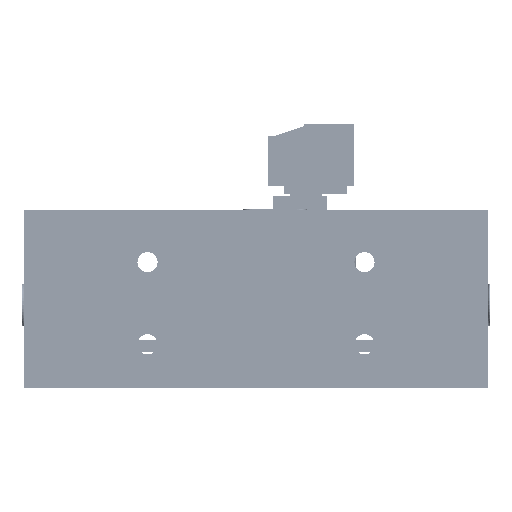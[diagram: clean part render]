
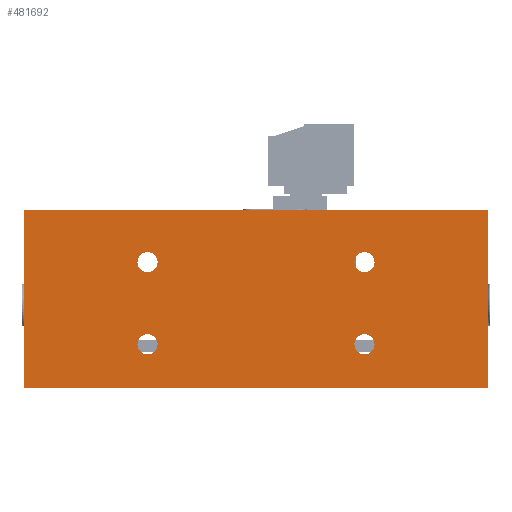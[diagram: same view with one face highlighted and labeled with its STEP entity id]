
A CAD part, left-side view. The second image highlights one B-rep face of the part: STEP entity #481692.
In plain terms, the highlighted planar face has unit normal (-1, 0, 0).
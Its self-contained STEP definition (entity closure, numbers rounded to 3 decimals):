
#481556 = VERTEX_POINT('',#481557);
#481557 = CARTESIAN_POINT('',(0.,60.,0.));
#481565 = EDGE_CURVE('',#481556,#481566,#481568,.T.);
#481566 = VERTEX_POINT('',#481567);
#481567 = CARTESIAN_POINT('',(0.,60.,23.));
#481568 = LINE('',#481569,#481570);
#481569 = CARTESIAN_POINT('',(0.,60.,0.));
#481570 = VECTOR('',#481571,1.);
#481571 = DIRECTION('',(0.,0.,1.));
#481631 = EDGE_CURVE('',#481632,#481556,#481634,.T.);
#481632 = VERTEX_POINT('',#481633);
#481633 = CARTESIAN_POINT('',(0.,0.,0.));
#481634 = LINE('',#481635,#481636);
#481635 = CARTESIAN_POINT('',(0.,0.,0.));
#481636 = VECTOR('',#481637,1.);
#481637 = DIRECTION('',(0.,1.,0.));
#481692 = ADVANCED_FACE('',(#481693,#481711,#481722,#481733,#481744),
  #481755,.F.);
#481693 = FACE_BOUND('',#481694,.F.);
#481694 = EDGE_LOOP('',(#481695,#481703,#481704,#481705));
#481695 = ORIENTED_EDGE('',*,*,#481696,.F.);
#481696 = EDGE_CURVE('',#481632,#481697,#481699,.T.);
#481697 = VERTEX_POINT('',#481698);
#481698 = CARTESIAN_POINT('',(0.,0.,23.));
#481699 = LINE('',#481700,#481701);
#481700 = CARTESIAN_POINT('',(0.,0.,0.));
#481701 = VECTOR('',#481702,1.);
#481702 = DIRECTION('',(0.,0.,1.));
#481703 = ORIENTED_EDGE('',*,*,#481631,.T.);
#481704 = ORIENTED_EDGE('',*,*,#481565,.T.);
#481705 = ORIENTED_EDGE('',*,*,#481706,.F.);
#481706 = EDGE_CURVE('',#481697,#481566,#481707,.T.);
#481707 = LINE('',#481708,#481709);
#481708 = CARTESIAN_POINT('',(0.,0.,23.));
#481709 = VECTOR('',#481710,1.);
#481710 = DIRECTION('',(0.,1.,0.));
#481711 = FACE_BOUND('',#481712,.F.);
#481712 = EDGE_LOOP('',(#481713));
#481713 = ORIENTED_EDGE('',*,*,#481714,.T.);
#481714 = EDGE_CURVE('',#481715,#481715,#481717,.T.);
#481715 = VERTEX_POINT('',#481716);
#481716 = CARTESIAN_POINT('',(0.,44.,4.3));
#481717 = CIRCLE('',#481718,1.3);
#481718 = AXIS2_PLACEMENT_3D('',#481719,#481720,#481721);
#481719 = CARTESIAN_POINT('',(0.,44.,5.6));
#481720 = DIRECTION('',(-1.,-0.,0.));
#481721 = DIRECTION('',(0.,0.,-1.));
#481722 = FACE_BOUND('',#481723,.F.);
#481723 = EDGE_LOOP('',(#481724));
#481724 = ORIENTED_EDGE('',*,*,#481725,.T.);
#481725 = EDGE_CURVE('',#481726,#481726,#481728,.T.);
#481726 = VERTEX_POINT('',#481727);
#481727 = CARTESIAN_POINT('',(0.,44.,14.9));
#481728 = CIRCLE('',#481729,1.3);
#481729 = AXIS2_PLACEMENT_3D('',#481730,#481731,#481732);
#481730 = CARTESIAN_POINT('',(0.,44.,16.2));
#481731 = DIRECTION('',(-1.,-0.,0.));
#481732 = DIRECTION('',(0.,0.,-1.));
#481733 = FACE_BOUND('',#481734,.F.);
#481734 = EDGE_LOOP('',(#481735));
#481735 = ORIENTED_EDGE('',*,*,#481736,.T.);
#481736 = EDGE_CURVE('',#481737,#481737,#481739,.T.);
#481737 = VERTEX_POINT('',#481738);
#481738 = CARTESIAN_POINT('',(0.,16.,4.3));
#481739 = CIRCLE('',#481740,1.3);
#481740 = AXIS2_PLACEMENT_3D('',#481741,#481742,#481743);
#481741 = CARTESIAN_POINT('',(0.,16.,5.6));
#481742 = DIRECTION('',(-1.,0.,0.));
#481743 = DIRECTION('',(0.,0.,-1.));
#481744 = FACE_BOUND('',#481745,.F.);
#481745 = EDGE_LOOP('',(#481746));
#481746 = ORIENTED_EDGE('',*,*,#481747,.T.);
#481747 = EDGE_CURVE('',#481748,#481748,#481750,.T.);
#481748 = VERTEX_POINT('',#481749);
#481749 = CARTESIAN_POINT('',(0.,16.,14.9));
#481750 = CIRCLE('',#481751,1.3);
#481751 = AXIS2_PLACEMENT_3D('',#481752,#481753,#481754);
#481752 = CARTESIAN_POINT('',(0.,16.,16.2));
#481753 = DIRECTION('',(-1.,-0.,0.));
#481754 = DIRECTION('',(0.,0.,-1.));
#481755 = PLANE('',#481756);
#481756 = AXIS2_PLACEMENT_3D('',#481757,#481758,#481759);
#481757 = CARTESIAN_POINT('',(0.,0.,0.));
#481758 = DIRECTION('',(1.,0.,0.));
#481759 = DIRECTION('',(0.,0.,1.));
